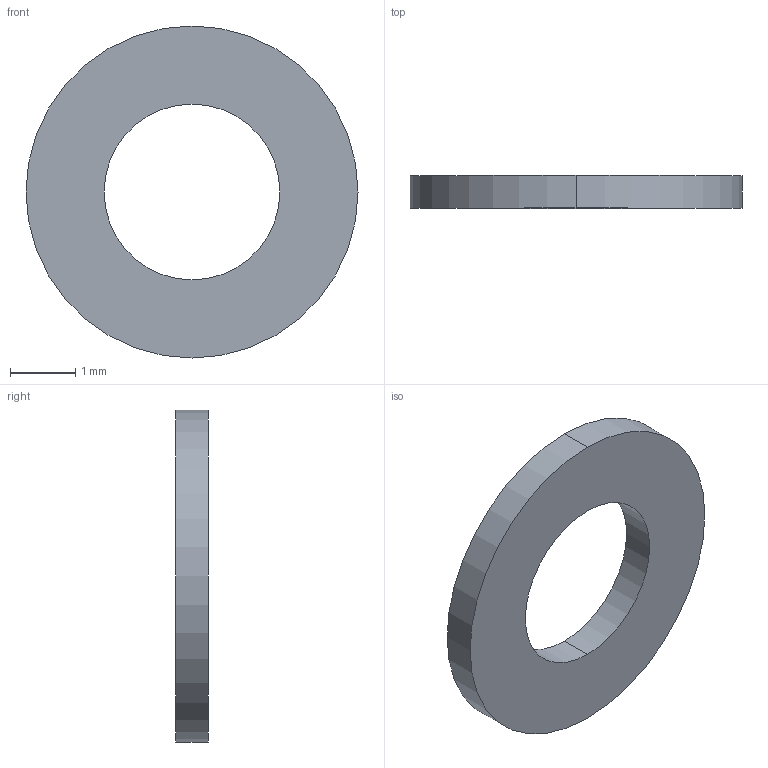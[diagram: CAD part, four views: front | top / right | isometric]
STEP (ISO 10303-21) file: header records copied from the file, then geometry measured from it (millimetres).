
FILE_DESCRIPTION(('Open CASCADE Model'),'2;1');
FILE_NAME('rear-pivot-m2p5-thrust-washer.step','2026-11-14T14:32:01',( 'Author'),('Open CASCADE'),'Open CASCADE STEP processor 8.0', 'Open CASCADE 8.0','Unknown');
FILE_SCHEMA(('AP242_MANAGED_MODEL_BASED_3D_ENGINEERING_MIM_LF {1 0 10303 442 1 1 4 }' ));
Length unit declared in the file: millimetre
Products named in the file (1): Rear Pivot M2p5 Thrust Washer
Bounding box: 5.1 x 0.5 x 5.1 mm (x, y, z)
Volume: 7.4 mm3; surface area: 41.7 mm2
Topology: 1 solids, 1 shells, 6 faces, 12 edges, 8 vertices
Faces by surface type: cylinder 4, plane 2
Entity records: 340 total; most frequent: CARTESIAN_POINT 63, DIRECTION 56, ORIENTED_EDGE 24, PCURVE 24, DEFINITIONAL_REPRESENTATION 24, LINE 20, VECTOR 20, AXIS2_PLACEMENT_3D 15
